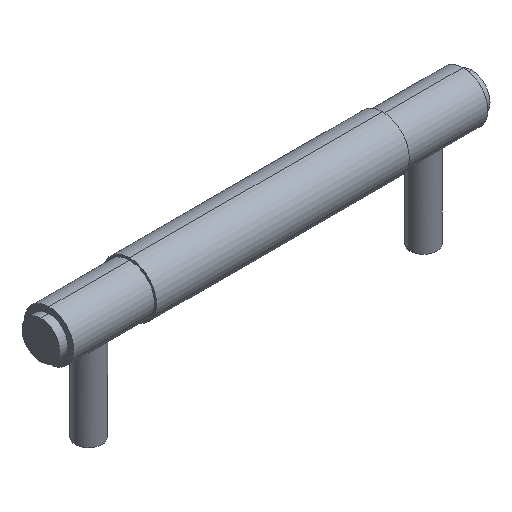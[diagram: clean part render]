
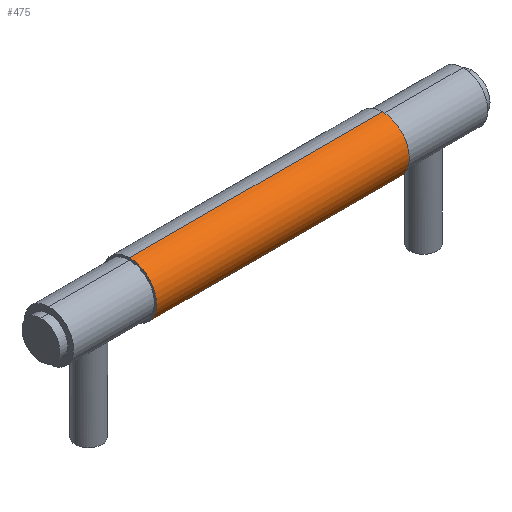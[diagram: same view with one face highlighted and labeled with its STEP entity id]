
A CAD part, isometric view. The second image highlights one B-rep face of the part: STEP entity #475.
In plain terms, the highlighted cylindrical face has radius 10 mm (diameter 20 mm), a partial arc.
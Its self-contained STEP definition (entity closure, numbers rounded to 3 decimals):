
#5 = CARTESIAN_POINT ( 'NONE',  ( -47., 0., 10. ) ) ;
#8 = FACE_OUTER_BOUND ( 'NONE', #223, .T. ) ;
#13 = CARTESIAN_POINT ( 'NONE',  ( -47., 0., 0. ) ) ;
#28 = AXIS2_PLACEMENT_3D ( 'NONE', #503, #263, #138 ) ;
#44 = CARTESIAN_POINT ( 'NONE',  ( 47., 0., 0. ) ) ;
#74 = DIRECTION ( 'NONE',  ( 0., 0., -1. ) ) ;
#82 = DIRECTION ( 'NONE',  ( -1., 0., 0. ) ) ;
#106 = DIRECTION ( 'NONE',  ( 0., 0., -1. ) ) ;
#122 = LINE ( 'NONE', #267, #593 ) ;
#129 = CARTESIAN_POINT ( 'NONE',  ( -47., 0., -10. ) ) ;
#138 = DIRECTION ( 'NONE',  ( 0., 0., 1. ) ) ;
#147 = CARTESIAN_POINT ( 'NONE',  ( 47., 0., -10. ) ) ;
#170 = ORIENTED_EDGE ( 'NONE', *, *, #455, .T. ) ;
#182 = EDGE_CURVE ( 'NONE', #652, #664, #122, .T. ) ;
#217 = AXIS2_PLACEMENT_3D ( 'NONE', #44, #474, #106 ) ;
#222 = EDGE_CURVE ( 'NONE', #652, #544, #432, .T. ) ;
#223 = EDGE_LOOP ( 'NONE', ( #285, #426, #768, #170 ) ) ;
#263 = DIRECTION ( 'NONE',  ( -1., 0., 0. ) ) ;
#267 = CARTESIAN_POINT ( 'NONE',  ( 47., 0., 10. ) ) ;
#285 = ORIENTED_EDGE ( 'NONE', *, *, #732, .F. ) ;
#321 = CYLINDRICAL_SURFACE ( 'NONE', #28, 10. ) ;
#322 = DIRECTION ( 'NONE',  ( -1., 0., 0. ) ) ;
#373 = CARTESIAN_POINT ( 'NONE',  ( 47., 0., 10. ) ) ;
#377 = LINE ( 'NONE', #747, #684 ) ;
#426 = ORIENTED_EDGE ( 'NONE', *, *, #222, .F. ) ;
#432 = CIRCLE ( 'NONE', #217, 10. ) ;
#441 = DIRECTION ( 'NONE',  ( 1., 0., 0. ) ) ;
#453 = AXIS2_PLACEMENT_3D ( 'NONE', #13, #441, #74 ) ;
#455 = EDGE_CURVE ( 'NONE', #664, #715, #496, .T. ) ;
#474 = DIRECTION ( 'NONE',  ( 1., 0., 0. ) ) ;
#475 = ADVANCED_FACE ( 'NONE', ( #8 ), #321, .T. ) ;
#496 = CIRCLE ( 'NONE', #453, 10. ) ;
#503 = CARTESIAN_POINT ( 'NONE',  ( 47., 0., 0. ) ) ;
#544 = VERTEX_POINT ( 'NONE', #147 ) ;
#593 = VECTOR ( 'NONE', #82, 1000. ) ;
#652 = VERTEX_POINT ( 'NONE', #373 ) ;
#664 = VERTEX_POINT ( 'NONE', #5 ) ;
#684 = VECTOR ( 'NONE', #322, 1000. ) ;
#715 = VERTEX_POINT ( 'NONE', #129 ) ;
#732 = EDGE_CURVE ( 'NONE', #544, #715, #377, .T. ) ;
#747 = CARTESIAN_POINT ( 'NONE',  ( 47., 0., -10. ) ) ;
#768 = ORIENTED_EDGE ( 'NONE', *, *, #182, .T. ) ;
